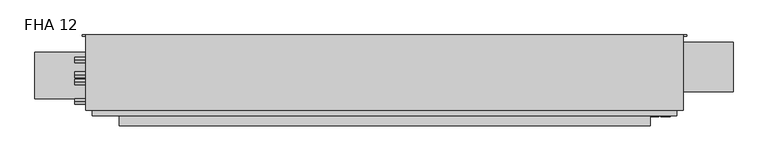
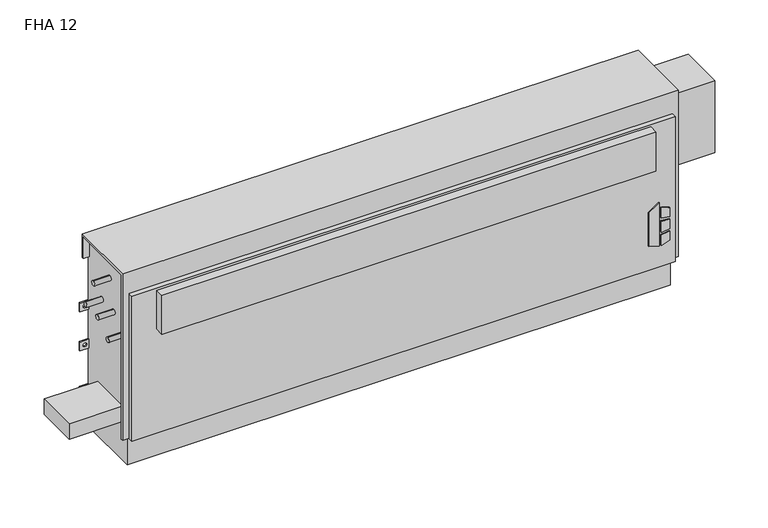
"""IFC4 building model written with IfcOpenShell, lengths in millimetres: proxy geometry, Vertical_Fan_Coil_Unit_-_FHA_-_IEC_-_4-Pipe_FS-FR_LH_2022 : FHA 12."""

import ifcopenshell
import ifcopenshell.guid

model = None  # the IFC model being written
_history = None  # IfcOwnerHistory: only IFC2X3 demands one
_inside = {}  # id of a spatial element -> (the spatial element, [elements in it])
_under = {}  # id of a project, library or spatial element -> (it, [spatial elements below it])
_declared = {}  # id of a project -> (the project, [libraries it declares])
_typed = {}  # id of a type object -> (the type object, [elements of that type])
_made_of = {}  # id of a material, layer set ... -> (it, [elements and type objects made of it])


def new_model(schema):
    """Start an empty IFC model of exactly this schema.

    Asked for "IFC4X3", IfcOpenShell would pick the latest addendum, in which some entities
    have other attributes; the version numbers below select the first issue.
    IFC2X3 requires an IfcOwnerHistory on every rooted entity: one is made here for all.
    """
    global model, _history
    if schema == "IFC4X3":
        model = ifcopenshell.file(schema_version=(4, 3, 0, 0))
    else:
        model = ifcopenshell.file(schema=schema)
    _inside.clear()
    _under.clear()
    _declared.clear()
    _typed.clear()
    _made_of.clear()
    _history = None
    if model.schema == "IFC2X3":
        org = make("IfcOrganization", Name="unknown")
        user = make(
            "IfcPersonAndOrganization",
            ThePerson=make("IfcPerson", FamilyName="unknown"),
            TheOrganization=org,
        )
        app = make(
            "IfcApplication",
            ApplicationDeveloper=org,
            Version="unknown",
            ApplicationFullName="unknown",
            ApplicationIdentifier="unknown",
        )
        _history = make(
            "IfcOwnerHistory",
            OwningUser=user,
            OwningApplication=app,
            ChangeAction="ADDED",
            CreationDate=0,
        )
    return model


def make(cls, **values):
    """One entity of the class cls with the attributes given. An attribute that is None is left unset."""
    return model.create_entity(
        cls, **{name: value for name, value in values.items() if value is not None}
    )


def rooted(cls, **values):
    """An entity with a GlobalId (a new one), such as an element, a storey or a relation."""
    return make(cls, GlobalId=ifcopenshell.guid.new(), OwnerHistory=_history, **values)


def si_unit(unit_type, name, prefix=None):
    """IfcSIUnit, for example si_unit("LENGTHUNIT", "METRE", prefix="MILLI")."""
    return make("IfcSIUnit", UnitType=unit_type, Prefix=prefix, Name=name)


def assignment(units):
    """IfcUnitAssignment: the units of a project."""
    return None if units is None else make("IfcUnitAssignment", Units=units)


def point(xyz):
    """IfcCartesianPoint."""
    return None if xyz is None else make("IfcCartesianPoint", Coordinates=xyz)


def direction(xyz):
    """IfcDirection."""
    return None if xyz is None else make("IfcDirection", DirectionRatios=xyz)


def frame(location, z_axis=None, x_axis=None):
    """IfcAxis2Placement3D, a coordinate frame: its origin and axes. An axis left out is left unset."""
    return make(
        "IfcAxis2Placement3D",
        Location=point(location),
        Axis=direction(z_axis),
        RefDirection=direction(x_axis),
    )


def frame_2d(location, x_axis=None):
    """IfcAxis2Placement2D, a coordinate frame in the plane: its origin and x axis."""
    return make(
        "IfcAxis2Placement2D", Location=point(location), RefDirection=direction(x_axis)
    )


def origin():
    """The frame at (0, 0, 0) with its axes left unset."""
    return frame((0.0, 0.0, 0.0))


def place(relative_to, where):
    """IfcLocalPlacement: puts the frame where relative to a parent placement (None: the world)."""
    return make(
        "IfcLocalPlacement", PlacementRelTo=relative_to, RelativePlacement=where
    )


def context(
    kind, dimensions, precision=None, world=None, true_north=None, identifier=None
):
    """IfcGeometricRepresentationContext, for example the 3D "Model" context."""
    return make(
        "IfcGeometricRepresentationContext",
        ContextIdentifier=identifier,
        ContextType=kind,
        CoordinateSpaceDimension=dimensions,
        Precision=precision,
        WorldCoordinateSystem=world,
        TrueNorth=true_north,
    )


def project(units=None, contexts=None):
    """IfcProject with its units and contexts."""
    return rooted(
        "IfcProject",
        Name="project",
        RepresentationContexts=contexts,
        UnitsInContext=assignment(units),
    )


def spatial(cls, under=None, at=None, **own):
    """A site, building, storey or space (cls), placed at a placement, below another one or the project."""
    s = rooted(cls, ObjectPlacement=at, **own)
    if under is not None:
        _under.setdefault(under.id(), (under, []))[1].append(s)
    return s


def polyline(points):
    """IfcPolyline through the points."""
    return make("IfcPolyline", Points=[point(p) for p in points])


def circle_curve(where, radius):
    """IfcCircle in the frame where."""
    return make("IfcCircle", Position=where, Radius=radius)


def trimmed(basis, trim1, trim2, sense, master):
    """IfcTrimmedCurve: the piece of a basis curve between two trims."""
    return make(
        "IfcTrimmedCurve",
        BasisCurve=basis,
        Trim1=trim1,
        Trim2=trim2,
        SenseAgreement=sense,
        MasterRepresentation=master,
    )


def segment(curve, same_sense, transition):
    """IfcCompositeCurveSegment."""
    return make(
        "IfcCompositeCurveSegment",
        Transition=transition,
        SameSense=same_sense,
        ParentCurve=curve,
    )


def composite_curve(segments, self_intersect=None):
    """IfcCompositeCurve: segments joined end to end."""
    return make("IfcCompositeCurve", Segments=segments, SelfIntersect=self_intersect)


def outline(outer, holes=None, kind="AREA"):
    """IfcArbitraryClosedProfileDef: a profile drawn as a closed curve; with holes, ...WithVoids."""
    if holes is None:
        return make("IfcArbitraryClosedProfileDef", ProfileType=kind, OuterCurve=outer)
    return make(
        "IfcArbitraryProfileDefWithVoids",
        ProfileType=kind,
        OuterCurve=outer,
        InnerCurves=holes,
    )


def extrude(swept, where, along, depth):
    """IfcExtrudedAreaSolid: the profile swept, set in the frame where, extruded along a direction by depth."""
    return make(
        "IfcExtrudedAreaSolid",
        SweptArea=swept,
        Position=where,
        ExtrudedDirection=direction(along),
        Depth=depth,
    )


def shape(context_of_items, identifier, shape_type, items):
    """IfcShapeRepresentation: the items that make up one representation, for example the "Body"."""
    return make(
        "IfcShapeRepresentation",
        ContextOfItems=context_of_items,
        RepresentationIdentifier=identifier,
        RepresentationType=shape_type,
        Items=items,
    )


def source(mapping_origin, context_of_items, identifier, shape_type, items):
    """IfcRepresentationMap: a shape defined once, which mapped items show again and again."""
    return make(
        "IfcRepresentationMap",
        MappingOrigin=mapping_origin,
        MappedRepresentation=shape(context_of_items, identifier, shape_type, items),
    )


def transform(
    local_origin,
    x_axis=None,
    y_axis=None,
    z_axis=None,
    scale=None,
    scale2=None,
    scale3=None,
    uniform=True,
):
    """IfcCartesianTransformationOperator3D, or its non-uniform kind. x_axis, y_axis, z_axis: its Axis1, 2, 3."""
    if uniform:
        return make(
            "IfcCartesianTransformationOperator3D",
            Axis1=direction(x_axis),
            Axis2=direction(y_axis),
            LocalOrigin=point(local_origin),
            Scale=scale,
            Axis3=direction(z_axis),
        )
    return make(
        "IfcCartesianTransformationOperator3DnonUniform",
        Axis1=direction(x_axis),
        Axis2=direction(y_axis),
        LocalOrigin=point(local_origin),
        Scale=scale,
        Axis3=direction(z_axis),
        Scale2=scale2,
        Scale3=scale3,
    )


def mapped(mapping_source, mapping_target):
    """IfcMappedItem: shows the shape of a source again, moved by a transform."""
    return make(
        "IfcMappedItem", MappingSource=mapping_source, MappingTarget=mapping_target
    )


def made_of(thing, what):
    """Note that an element or type object is made of a material, layer set ...; save() writes the relation."""
    if what is not None:
        _made_of.setdefault(what.id(), (what, []))[1].append(thing)
    return thing


def element(
    cls,
    number,
    at=None,
    inside=None,
    cuts=None,
    type_object=None,
    material=None,
    context=None,
    identifier="Body",
    shape_type=None,
    held_by="IfcProductDefinitionShape",
    body=None,
    shapes=None,
    **own,
):
    """One element of the class cls, such as IfcWall. Its Tag is "e" and its number.

    at: its placement. inside: the storey or other place that contains it. cuts: it is an
    opening in that element (IfcRelVoidsElement). A single representation is given by context,
    identifier, shape_type and body (its items); several are given by shapes. held_by: the class
    of the entity that holds the representations. save() writes the other relations.
    """
    e = rooted(cls, Tag="e%d" % number, ObjectPlacement=at, **own)
    if body is not None:
        shapes = [shape(context, identifier, shape_type, body)]
    if shapes is not None:
        e.Representation = make(held_by, Representations=shapes)
    if inside is not None:
        _inside.setdefault(inside.id(), (inside, []))[1].append(e)
    if cuts is not None:
        rooted(
            "IfcRelVoidsElement", RelatingBuildingElement=cuts, RelatedOpeningElement=e
        )
    if type_object is not None:
        _typed.setdefault(type_object.id(), (type_object, []))[1].append(e)
    return made_of(e, material)


def aggregate(whole, parts):
    """IfcRelAggregates: a whole, such as a stair, and the parts it consists of."""
    return rooted("IfcRelAggregates", RelatingObject=whole, RelatedObjects=parts)


def save(model, path):
    """Write the relations noted so far, then the file.

    IfcRelAggregates (storeys below a building ...), IfcRelContainedInSpatialStructure (elements
    in a storey), IfcRelDefinesByType, IfcRelAssociatesMaterial and IfcRelDeclares: one each for
    every whole, place, type object, material and project.
    """
    for whole, parts in _under.values():
        aggregate(whole, parts)
    for where, things in _inside.values():
        rooted(
            "IfcRelContainedInSpatialStructure",
            RelatedElements=things,
            RelatingStructure=where,
        )
    for kind, things in _typed.values():
        rooted("IfcRelDefinesByType", RelatedObjects=things, RelatingType=kind)
    for what, things in _made_of.values():
        rooted("IfcRelAssociatesMaterial", RelatedObjects=things, RelatingMaterial=what)
    for by, libraries in _declared.values():
        rooted("IfcRelDeclares", RelatingContext=by, RelatedDefinitions=libraries)
    model.write(path)


def plane_surface(at):
    """IfcPlane: the flat surface through the origin of the frame at, square to its z axis."""
    return make("IfcPlane", Position=at)


def revolved_surface(curve, axis_point, axis_direction):
    """IfcSurfaceOfRevolution: the curve turned about the line through axis_point along axis_direction."""
    return make(
        "IfcSurfaceOfRevolution",
        SweptCurve=make("IfcArbitraryOpenProfileDef", ProfileType="CURVE", Curve=curve),
        AxisPosition=make("IfcAxis1Placement", Location=point(axis_point), Axis=direction(axis_direction)),
    )


def advanced_brep(points, edges, surfaces, faces):
    """IfcAdvancedBrep: a solid bounded by faces that lie on surfaces and meet in shared edges.

    An edge is (start, end): straight between two places in points (the first is 0);
    or (start, end, curve); or (start, end, curve, False) where it runs against its curve.
    A face is (place in surfaces, loops), or (place, loops, False) where it looks against
    its surface's normal. A loop lists edges by number (the first is 1), with a minus sign
    where the edge is run from its end to its start. The first loop is the outer one.
    """
    corners = [point(p) for p in points]
    vertices = [make("IfcVertexPoint", VertexGeometry=c) for c in corners]
    made = []
    for start, end, *more in edges:
        made.append(
            make(
                "IfcEdgeCurve",
                EdgeStart=vertices[start],
                EdgeEnd=vertices[end],
                EdgeGeometry=more[0] if more else make("IfcPolyline", Points=[corners[start], corners[end]]),
                SameSense=more[1] if len(more) > 1 else True,
            )
        )
    hull = []
    for where, loops, *sense in faces:
        bounds = []
        for j, loop in enumerate(loops):
            ring = [make("IfcOrientedEdge", EdgeElement=made[abs(k) - 1], Orientation=k > 0) for k in loop]
            bounds.append(
                make(
                    "IfcFaceOuterBound" if j == 0 else "IfcFaceBound",
                    Bound=make("IfcEdgeLoop", EdgeList=ring),
                    Orientation=True,
                )
            )
        hull.append(make("IfcAdvancedFace", Bounds=bounds, FaceSurface=surfaces[where], SameSense=sense[0] if sense else True))
    return make("IfcAdvancedBrep", Outer=make("IfcClosedShell", CfsFaces=hull))


def fha_12_9516c50a(model_context):
    return source(origin(), model_context, "Body", "SolidModel", [
        extrude(outline(polyline([(172.5771459, 906.5368862), (162.6290756, 938.7102728), (304.8, 938.7102728), (281.7779939, 906.5368862), (172.5771459, 906.5368862)])), frame((0.0, 9.525, 0.0), z_axis=(0.0, 1.0, 0.0), x_axis=(0.0, 0.0, 1.0)), (0.0, 0.0, 1.0), 3.175),
        extrude(outline(polyline([(251.5764313, 945.4686058), (248.3740387, 971.55), (277.6028798, 971.55), (285.6672948, 945.4686058), (251.5764313, 945.4686058)])), frame((0.0, 9.525, 0.0), z_axis=(0.0, 1.0, 0.0), x_axis=(0.0, 0.0, 1.0)), (0.0, 0.0, 1.0), 3.175),
        extrude(outline(polyline([(199.7129044, 971.55), (196.0474034, 945.4686058), (162.6290756, 945.4686058), (171.2633128, 971.55), (199.7129044, 971.55)])), frame((0.0, 9.525, 0.0), z_axis=(0.0, 1.0, 0.0), x_axis=(0.0, 0.0, 1.0)), (0.0, 0.0, 1.0), 3.175),
        extrude(outline(polyline([(239.0280658, 971.55), (241.3098921, 945.4686058), (205.3723436, 945.4686058), (208.1136086, 971.55), (239.0280658, 971.55)])), frame((0.0, 9.525, 0.0), z_axis=(0.0, 1.0, 0.0), x_axis=(0.0, 0.0, 1.0)), (0.0, 0.0, 1.0), 3.175),
        extrude(outline(composite_curve([segment(trimmed(circle_curve(frame_2d((-749.3, 128.5875)), 9.525), [point((-758.825, 128.5875))], [point((-739.775, 128.5875))], False, "CARTESIAN"), True, "CONTINUOUS"), segment(trimmed(circle_curve(frame_2d((-749.3, 128.5875)), 9.525), [point((-739.775, 128.5875))], [point((-758.825, 128.5875))], False, "CARTESIAN"), True, "CONTINUOUS")], self_intersect=False)), frame((0.0, 0.0, 101.6), z_axis=(0.0, 0.0, 1.0), x_axis=(1.0, 0.0, 0.0)), (0.0, 0.0, 1.0), 25.4),
        extrude(outline(polyline([(-850.9, 61.9125), (-850.9, 195.2625), (-685.8, 195.2625), (-685.8, 61.9125), (-850.9, 61.9125)])), frame((0.0, 0.0, 127.0), z_axis=(0.0, 0.0, 1.0), x_axis=(1.0, 0.0, 0.0)), (0.0, 0.0, 1.0), 50.8),
        extrude(outline(polyline([(914.4, -15.875), (-609.6, -15.875), (-609.6, 12.7), (914.4, 12.7), (914.4, -15.875)])), frame((0.0, 0.0, 431.8), z_axis=(0.0, 0.0, 1.0), x_axis=(1.0, 0.0, 0.0)), (0.0, 0.0, 1.0), 127.0),
        extrude(outline(composite_curve([segment(trimmed(circle_curve(frame_2d((109.0168, 457.2)), 7.9375), [point((109.0168, 465.1375))], [point((109.0168, 449.2625))], False, "CARTESIAN"), True, "CONTINUOUS"), segment(trimmed(circle_curve(frame_2d((109.0168, 457.2)), 7.9375), [point((109.0168, 449.2625))], [point((109.0168, 465.1375))], False, "CARTESIAN"), True, "CONTINUOUS")], self_intersect=False)), frame((-736.6, 0.0, 0.0), z_axis=(1.0, 0.0, 0.0), x_axis=(0.0, 1.0, 0.0)), (0.0, 0.0, 1.0), 50.8),
        extrude(outline(composite_curve([segment(trimmed(circle_curve(frame_2d((172.085, 460.0194)), 7.9375), [point((172.085, 467.9569))], [point((172.085, 452.0819))], False, "CARTESIAN"), True, "CONTINUOUS"), segment(trimmed(circle_curve(frame_2d((172.085, 460.0194)), 7.9375), [point((172.085, 452.0819))], [point((172.085, 467.9569))], False, "CARTESIAN"), True, "CONTINUOUS")], self_intersect=False)), frame((-736.6, 0.0, 0.0), z_axis=(1.0, 0.0, 0.0), x_axis=(0.0, 1.0, 0.0)), (0.0, 0.0, 1.0), 50.8),
        extrude(outline(composite_curve([segment(trimmed(circle_curve(frame_2d((130.175, 554.99)), 7.9502), [point((130.175, 562.9402))], [point((130.175, 547.0398))], False, "CARTESIAN"), True, "CONTINUOUS"), segment(trimmed(circle_curve(frame_2d((130.175, 554.99)), 7.9502), [point((130.175, 547.0398))], [point((130.175, 562.9402))], False, "CARTESIAN"), True, "CONTINUOUS")], self_intersect=False)), frame((-736.6, 0.0, 0.0), z_axis=(1.0, 0.0, 0.0), x_axis=(0.0, 1.0, 0.0)), (0.0, 0.0, 1.0), 50.8),
        extrude(outline(composite_curve([segment(trimmed(circle_curve(frame_2d((53.975, 416.56)), 7.9502), [point((53.975, 424.5102))], [point((53.975, 408.6098))], False, "CARTESIAN"), True, "CONTINUOUS"), segment(trimmed(circle_curve(frame_2d((53.975, 416.56)), 7.9502), [point((53.975, 408.6098))], [point((53.975, 424.5102))], False, "CARTESIAN"), True, "CONTINUOUS")], self_intersect=False)), frame((-736.6, 0.0, 0.0), z_axis=(1.0, 0.0, 0.0), x_axis=(0.0, 1.0, 0.0)), (0.0, 0.0, 1.0), 50.8),
        extrude(outline(polyline([(1152.525, 223.266), (1152.525, 81.534), (990.6, 81.534), (990.6, 223.266), (1152.525, 223.266)])), frame((0.0, 0.0, 349.25), z_axis=(0.0, 0.0, 1.0), x_axis=(1.0, 0.0, 0.0)), (0.0, 0.0, 1.0), 234.95),
        advanced_brep(
        [(1009.65, 244.475, 635.0), (-704.85, 244.475, 635.0), (-704.85, 28.575, 635.0), (1009.65, 28.575, 635.0), (-685.8, 244.475, 0.0), (990.6, 244.475, 0.0), (990.6, 38.1, 0.0), (-685.8, 38.1, 0.0), (1009.65, 244.475, 558.8), (990.6, 244.475, 558.8), (990.6, 244.475, 414.3375), (1019.175, 244.475, 414.3375), (1019.175, 244.475, 385.7625), (990.6, 244.475, 385.7625), (990.6, 244.475, 287.3375), (1019.175, 244.475, 287.3375), (1019.175, 244.475, 258.7625), (990.6, 244.475, 258.7625), (990.6, 244.475, 141.2875), (1019.175, 244.475, 141.2875), (1019.175, 244.475, 112.7125), (990.6, 244.475, 112.7125), (-685.8, 244.475, 112.7125), (-714.375, 244.475, 112.7125), (-714.375, 244.475, 141.2875), (-685.8, 244.475, 141.2875), (-685.8, 244.475, 258.7625), (-714.375, 244.475, 258.7625), (-714.375, 244.475, 287.3375), (-685.8, 244.475, 287.3375), (-685.8, 244.475, 385.7625), (-714.375, 244.475, 385.7625), (-714.375, 244.475, 414.3375), (-685.8, 244.475, 414.3375), (-685.8, 244.475, 558.8), (-704.85, 244.475, 558.8), (1008.8626, 244.475, 127.0), (997.7374, 244.475, 127.0), (-692.9374, 244.475, 127.0), (-704.0626, 244.475, 127.0), (1008.8626, 244.475, 273.05), (997.7374, 244.475, 273.05), (-692.9374, 244.475, 273.05), (-704.0626, 244.475, 273.05), (1008.8626, 244.475, 400.05), (997.7374, 244.475, 400.05), (-692.9374, 244.475, 400.05), (-704.0626, 244.475, 400.05), (-704.85, 238.125, 558.8), (-704.85, 238.125, 628.65), (-704.85, 34.925, 628.65), (-704.85, 34.925, 92.075), (-704.85, 28.575, 92.075), (990.6, 12.7, 565.15), (-685.8, 12.7, 565.15), (-685.8, 12.7, 92.075), (990.6, 12.7, 92.075), (1009.65, 28.575, 92.075), (1009.65, 34.925, 92.075), (1009.65, 34.925, 628.65), (1009.65, 238.125, 628.65), (1009.65, 238.125, 558.8), (-685.8, 28.575, 92.075), (-685.8, 28.575, 565.15), (990.6, 28.575, 565.15), (990.6, 28.575, 92.075), (-685.8, 34.925, 92.075), (-685.8, 38.1, 92.075), (990.6, 38.1, 92.075), (990.6, 34.925, 92.075), (990.6, 241.3, 112.7125), (990.6, 241.3, 141.2875), (990.6, 241.3, 258.7625), (990.6, 241.3, 287.3375), (990.6, 241.3, 385.7625), (990.6, 241.3, 414.3375), (990.6, 238.125, 558.8), (990.6, 238.125, 628.65), (990.6, 34.925, 628.65), (-685.8, 34.925, 628.65), (-685.8, 238.125, 628.65), (-685.8, 238.125, 558.8), (-685.8, 241.3, 414.3375), (-685.8, 241.3, 385.7625), (-685.8, 241.3, 287.3375), (-685.8, 241.3, 258.7625), (-685.8, 241.3, 141.2875), (-685.8, 241.3, 112.7125), (1019.175, 241.3, 112.7125), (1019.175, 241.3, 141.2875), (997.7374, 241.3, 127.0), (1008.8626, 241.3, 127.0), (1019.175, 241.3, 258.7625), (1019.175, 241.3, 287.3375), (997.7374, 241.3, 273.05), (1008.8626, 241.3, 273.05), (1019.175, 241.3, 385.7625), (1019.175, 241.3, 414.3375), (997.7374, 241.3, 400.05), (1008.8626, 241.3, 400.05), (-714.375, 241.3, 141.2875), (-714.375, 241.3, 112.7125), (-704.0626, 241.3, 127.0), (-692.9374, 241.3, 127.0), (-714.375, 241.3, 287.3375), (-714.375, 241.3, 258.7625), (-704.0626, 241.3, 273.05), (-692.9374, 241.3, 273.05), (-714.375, 241.3, 414.3375), (-714.375, 241.3, 385.7625), (-704.0626, 241.3, 400.05), (-692.9374, 241.3, 400.05)],
        [
            (0, 1),
            (1, 2),
            (2, 3),
            (3, 0),
            (4, 5),
            (5, 6),
            (6, 7),
            (7, 4),
            (0, 8),
            (8, 9),
            (9, 10),
            (10, 11),
            (11, 12),
            (12, 13),
            (13, 14),
            (14, 15),
            (15, 16),
            (16, 17),
            (17, 18),
            (18, 19),
            (19, 20),
            (20, 21),
            (21, 5),
            (4, 22),
            (22, 23),
            (23, 24),
            (24, 25),
            (25, 26),
            (26, 27),
            (27, 28),
            (28, 29),
            (29, 30),
            (30, 31),
            (31, 32),
            (32, 33),
            (33, 34),
            (34, 35),
            (35, 1),
            (36, 37, circle_curve(frame((1003.3, 244.475, 127.0), z_axis=(0.0, -1.0, 0.0), x_axis=(-1.0, 0.0, 0.0)), 5.5626)),
            (37, 36, circle_curve(frame((1003.3, 244.475, 127.0), z_axis=(0.0, -1.0, 0.0), x_axis=(-1.0, 0.0, 0.0)), 5.5626)),
            (38, 39, circle_curve(frame((-698.5, 244.475, 127.0), z_axis=(0.0, -1.0, 0.0), x_axis=(-1.0, 0.0, 0.0)), 5.5626)),
            (39, 38, circle_curve(frame((-698.5, 244.475, 127.0), z_axis=(0.0, -1.0, 0.0), x_axis=(-1.0, 0.0, 0.0)), 5.5626)),
            (40, 41, circle_curve(frame((1003.3, 244.475, 273.05), z_axis=(0.0, -1.0, 0.0), x_axis=(-1.0, 0.0, 0.0)), 5.5626)),
            (41, 40, circle_curve(frame((1003.3, 244.475, 273.05), z_axis=(0.0, -1.0, 0.0), x_axis=(-1.0, 0.0, 0.0)), 5.5626)),
            (42, 43, circle_curve(frame((-698.5, 244.475, 273.05), z_axis=(0.0, -1.0, 0.0), x_axis=(-1.0, 0.0, 0.0)), 5.5626)),
            (43, 42, circle_curve(frame((-698.5, 244.475, 273.05), z_axis=(0.0, -1.0, 0.0), x_axis=(-1.0, 0.0, 0.0)), 5.5626)),
            (44, 45, circle_curve(frame((1003.3, 244.475, 400.05), z_axis=(0.0, -1.0, 0.0), x_axis=(-1.0, 0.0, 0.0)), 5.5626)),
            (45, 44, circle_curve(frame((1003.3, 244.475, 400.05), z_axis=(0.0, -1.0, 0.0), x_axis=(-1.0, 0.0, 0.0)), 5.5626)),
            (46, 47, circle_curve(frame((-698.5, 244.475, 400.05), z_axis=(0.0, -1.0, 0.0), x_axis=(-1.0, 0.0, 0.0)), 5.5626)),
            (47, 46, circle_curve(frame((-698.5, 244.475, 400.05), z_axis=(0.0, -1.0, 0.0), x_axis=(-1.0, 0.0, 0.0)), 5.5626)),
            (35, 48),
            (48, 49),
            (49, 50),
            (50, 51),
            (51, 52),
            (52, 2),
            (53, 54),
            (54, 55),
            (55, 56),
            (56, 53),
            (3, 57),
            (57, 58),
            (58, 59),
            (59, 60),
            (60, 61),
            (61, 8),
            (52, 62),
            (62, 63),
            (63, 64),
            (64, 65),
            (65, 57),
            (53, 64),
            (63, 54),
            (55, 62),
            (51, 66),
            (66, 67),
            (67, 68),
            (68, 69),
            (69, 58),
            (65, 56),
            (6, 68),
            (67, 7),
            (21, 70),
            (70, 71),
            (71, 18),
            (17, 72),
            (72, 73),
            (73, 14),
            (13, 74),
            (74, 75),
            (75, 10),
            (9, 76),
            (76, 77),
            (77, 78),
            (78, 69),
            (66, 79),
            (79, 80),
            (80, 81),
            (81, 34),
            (33, 82),
            (82, 83),
            (83, 30),
            (29, 84),
            (84, 85),
            (85, 26),
            (25, 86),
            (86, 87),
            (87, 22),
            (76, 61),
            (60, 77),
            (78, 59),
            (50, 79),
            (81, 48),
            (80, 49),
            (70, 88),
            (88, 89),
            (89, 71),
            (90, 91, circle_curve(frame((1003.3, 241.3, 127.0), z_axis=(0.0, 1.0, 0.0), x_axis=(-1.0, 0.0, 0.0)), 5.5626)),
            (91, 90, circle_curve(frame((1003.3, 241.3, 127.0), z_axis=(0.0, 1.0, 0.0), x_axis=(-1.0, 0.0, 0.0)), 5.5626)),
            (92, 93),
            (93, 73),
            (72, 92),
            (94, 95, circle_curve(frame((1003.3, 241.3, 273.05), z_axis=(0.0, 1.0, 0.0), x_axis=(-1.0, 0.0, 0.0)), 5.5626)),
            (95, 94, circle_curve(frame((1003.3, 241.3, 273.05), z_axis=(0.0, 1.0, 0.0), x_axis=(-1.0, 0.0, 0.0)), 5.5626)),
            (96, 97),
            (97, 75),
            (74, 96),
            (98, 99, circle_curve(frame((1003.3, 241.3, 400.05), z_axis=(0.0, 1.0, 0.0), x_axis=(-1.0, 0.0, 0.0)), 5.5626)),
            (99, 98, circle_curve(frame((1003.3, 241.3, 400.05), z_axis=(0.0, 1.0, 0.0), x_axis=(-1.0, 0.0, 0.0)), 5.5626)),
            (100, 101),
            (101, 87),
            (86, 100),
            (102, 103, circle_curve(frame((-698.5, 241.3, 127.0), z_axis=(0.0, 1.0, 0.0), x_axis=(-1.0, 0.0, 0.0)), 5.5626)),
            (103, 102, circle_curve(frame((-698.5, 241.3, 127.0), z_axis=(0.0, 1.0, 0.0), x_axis=(-1.0, 0.0, 0.0)), 5.5626)),
            (84, 104),
            (104, 105),
            (105, 85),
            (106, 107, circle_curve(frame((-698.5, 241.3, 273.05), z_axis=(0.0, 1.0, 0.0), x_axis=(-1.0, 0.0, 0.0)), 5.5626)),
            (107, 106, circle_curve(frame((-698.5, 241.3, 273.05), z_axis=(0.0, 1.0, 0.0), x_axis=(-1.0, 0.0, 0.0)), 5.5626)),
            (108, 109),
            (109, 83),
            (82, 108),
            (110, 111, circle_curve(frame((-698.5, 241.3, 400.05), z_axis=(0.0, 1.0, 0.0), x_axis=(-1.0, 0.0, 0.0)), 5.5626)),
            (111, 110, circle_curve(frame((-698.5, 241.3, 400.05), z_axis=(0.0, 1.0, 0.0), x_axis=(-1.0, 0.0, 0.0)), 5.5626)),
            (89, 19),
            (88, 20),
            (16, 92),
            (93, 15),
            (12, 96),
            (97, 11),
            (24, 100),
            (101, 23),
            (105, 27),
            (104, 28),
            (32, 108),
            (109, 31),
            (90, 37),
            (36, 91),
            (102, 39),
            (38, 103),
            (94, 41),
            (40, 95),
            (106, 43),
            (42, 107),
            (98, 45),
            (44, 99),
            (110, 47),
            (46, 111),
        ],
        [
            plane_surface(frame((-704.85, 244.475, 635.0), z_axis=(0.0, 0.0, 1.0), x_axis=(-1.0, 0.0, 0.0))),
            plane_surface(frame((-704.85, 244.475, 0.0), z_axis=(0.0, 0.0, -1.0), x_axis=(1.0, 0.0, 0.0))),
            plane_surface(frame((1009.65, 244.475, 635.0), z_axis=(0.0, 1.0, 0.0), x_axis=(0.0, 0.0, -1.0))),
            plane_surface(frame((-704.85, 244.475, 635.0), z_axis=(-1.0, 0.0, 0.0), x_axis=(0.0, 0.0, -1.0))),
            plane_surface(frame((-704.85, 12.7, 635.0), z_axis=(0.0, -1.0, 0.0), x_axis=(0.0, 0.0, -1.0))),
            plane_surface(frame((1009.65, 12.7, 635.0), z_axis=(1.0, 0.0, 0.0), x_axis=(0.0, 0.0, -1.0))),
            plane_surface(frame((-1263.65, 28.575, 635.0), z_axis=(0.0, -1.0, 0.0), x_axis=(1.0, 0.0, 0.0))),
            plane_surface(frame((-1263.65, 28.575, 565.15), z_axis=(0.0, 0.0, 1.0), x_axis=(1.0, 0.0, 0.0))),
            plane_surface(frame((-704.85, 12.7, 92.075), z_axis=(0.0, 0.0, -1.0), x_axis=(1.0, 0.0, 0.0))),
            plane_surface(frame((-704.85, 38.1, 92.075), z_axis=(0.0, -1.0, 0.0), x_axis=(1.0, 0.0, 0.0))),
            plane_surface(frame((990.6, 28.575, 92.075), z_axis=(1.0, 0.0, 0.0), x_axis=(0.0, -1.0, 0.0))),
            plane_surface(frame((-685.8, 28.575, 565.15), z_axis=(-1.0, 0.0, 0.0), x_axis=(0.0, -1.0, 0.0))),
            plane_surface(frame((990.6, 244.475, 0.0), z_axis=(1.0, 0.0, 0.0), x_axis=(0.0, -1.0, 0.0))),
            plane_surface(frame((-685.8, 244.475, 92.075), z_axis=(-1.0, 0.0, 0.0), x_axis=(0.0, -1.0, 0.0))),
            plane_surface(frame((990.6, 238.125, 628.65), z_axis=(0.0, -1.0, 0.0), x_axis=(1.0, 0.0, 0.0))),
            plane_surface(frame((990.6, 238.125, 558.8), z_axis=(0.0, 0.0, -1.0), x_axis=(1.0, 0.0, 0.0))),
            plane_surface(frame((990.6, 34.925, 92.075), z_axis=(0.0, 1.0, 0.0), x_axis=(1.0, 0.0, 0.0))),
            plane_surface(frame((990.6, 34.925, 628.65), z_axis=(0.0, 0.0, -1.0), x_axis=(1.0, 0.0, 0.0))),
            plane_surface(frame((-685.8, 34.925, 628.65), z_axis=(0.0, 1.0, 0.0), x_axis=(-1.0, 0.0, 0.0))),
            plane_surface(frame((-685.8, 244.475, 558.8), z_axis=(0.0, 0.0, -1.0), x_axis=(-1.0, 0.0, 0.0))),
            plane_surface(frame((-685.8, 238.125, 558.8), z_axis=(0.0, -1.0, 0.0), x_axis=(-1.0, 0.0, 0.0))),
            plane_surface(frame((-685.8, 238.125, 628.65), z_axis=(0.0, 0.0, -1.0), x_axis=(-1.0, 0.0, 0.0))),
            plane_surface(frame((1019.175, 241.3, 141.2875), z_axis=(0.0, -1.0, 0.0), x_axis=(-1.0, 0.0, 0.0))),
            plane_surface(frame((990.6, 244.475, 141.2875), z_axis=(0.0, 0.0, 1.0), x_axis=(0.0, -1.0, 0.0))),
            plane_surface(frame((1019.175, 244.475, 141.2875), z_axis=(1.0, 0.0, 0.0), x_axis=(0.0, -1.0, 0.0))),
            plane_surface(frame((1019.175, 244.475, 112.7125), z_axis=(0.0, 0.0, -1.0), x_axis=(0.0, -1.0, 0.0))),
            plane_surface(frame((1019.175, 244.475, 258.7625), z_axis=(0.0, 0.0, -1.0), x_axis=(0.0, -1.0, 0.0))),
            plane_surface(frame((990.6, 244.475, 287.3375), z_axis=(0.0, 0.0, 1.0), x_axis=(0.0, -1.0, 0.0))),
            plane_surface(frame((1019.175, 244.475, 287.3375), z_axis=(1.0, 0.0, 0.0), x_axis=(0.0, -1.0, 0.0))),
            plane_surface(frame((1019.175, 244.475, 385.7625), z_axis=(0.0, 0.0, -1.0), x_axis=(0.0, -1.0, 0.0))),
            plane_surface(frame((990.6, 244.475, 414.3375), z_axis=(0.0, 0.0, 1.0), x_axis=(0.0, -1.0, 0.0))),
            plane_surface(frame((1019.175, 244.475, 414.3375), z_axis=(1.0, 0.0, 0.0), x_axis=(0.0, -1.0, 0.0))),
            plane_surface(frame((-714.375, 244.475, 141.2875), z_axis=(0.0, 0.0, 1.0), x_axis=(0.0, -1.0, 0.0))),
            plane_surface(frame((-685.8, 244.475, 112.7125), z_axis=(0.0, 0.0, -1.0), x_axis=(0.0, -1.0, 0.0))),
            plane_surface(frame((-714.375, 244.475, 112.7125), z_axis=(-1.0, 0.0, 0.0), x_axis=(0.0, -1.0, 0.0))),
            plane_surface(frame((-685.8, 244.475, 258.7625), z_axis=(0.0, 0.0, -1.0), x_axis=(0.0, -1.0, 0.0))),
            plane_surface(frame((-714.375, 244.475, 258.7625), z_axis=(-1.0, 0.0, 0.0), x_axis=(0.0, -1.0, 0.0))),
            plane_surface(frame((-714.375, 244.475, 287.3375), z_axis=(0.0, 0.0, 1.0), x_axis=(0.0, -1.0, 0.0))),
            plane_surface(frame((-714.375, 244.475, 414.3375), z_axis=(0.0, 0.0, 1.0), x_axis=(0.0, -1.0, 0.0))),
            plane_surface(frame((-685.8, 244.475, 385.7625), z_axis=(0.0, 0.0, -1.0), x_axis=(0.0, -1.0, 0.0))),
            plane_surface(frame((-714.375, 244.475, 385.7625), z_axis=(-1.0, 0.0, 0.0), x_axis=(0.0, -1.0, 0.0))),
            revolved_surface(polyline([(997.7374, 241.3, 127.0), (997.7374, 244.475, 127.0)]), (1003.3, 244.475, 127.0), (0.0, -1.0, 0.0)),
            revolved_surface(polyline([(-704.0626, 241.3, 127.0), (-704.0626, 244.475, 127.0)]), (-698.5, 244.475, 127.0), (0.0, -1.0, 0.0)),
            revolved_surface(polyline([(997.7374, 241.3, 273.05), (997.7374, 244.475, 273.05)]), (1003.3, 244.475, 273.05), (0.0, -1.0, 0.0)),
            revolved_surface(polyline([(-704.0626, 241.3, 273.05), (-704.0626, 244.475, 273.05)]), (-698.5, 244.475, 273.05), (0.0, -1.0, 0.0)),
            revolved_surface(polyline([(997.7374, 241.3, 400.05), (997.7374, 244.475, 400.05)]), (1003.3, 244.475, 400.05), (0.0, -1.0, 0.0)),
            revolved_surface(polyline([(-704.0626, 241.3, 400.05), (-704.0626, 244.475, 400.05)]), (-698.5, 244.475, 400.05), (0.0, -1.0, 0.0)),
        ],
        [
            (0, [[1, 2, 3, 4]]),
            (1, [[5, 6, 7, 8]]),
            (2, [[-1, 9, 10, 11, 12, 13, 14, 15, 16, 17, 18, 19, 20, 21, 22, 23, -5, 24, 25, 26, 27, 28, 29, 30, 31, 32, 33, 34, 35, 36, 37, 38], [39, 40], [41, 42], [43, 44], [45, 46], [47, 48], [49, 50]]),
            (3, [[-2, -38, 51, 52, 53, 54, 55, 56]]),
            (4, [[57, 58, 59, 60]]),
            (5, [[-4, 61, 62, 63, 64, 65, 66, -9]]),
            (6, [[-3, -56, 67, 68, 69, 70, 71, -61]]),
            (7, [[-57, 72, -69, 73]]),
            (8, [[-59, 74, -67, -55, 75, 76, 77, 78, 79, -62, -71, 80]]),
            (9, [[-7, 81, -77, 82]]),
            (10, [[-70, -72, -60, -80]]),
            (11, [[-68, -74, -58, -73]]),
            (12, [[-6, -23, 83, 84, 85, -19, 86, 87, 88, -15, 89, 90, 91, -11, 92, 93, 94, 95, -78, -81]]),
            (13, [[-8, -82, -76, 96, 97, 98, 99, -36, 100, 101, 102, -32, 103, 104, 105, -28, 106, 107, 108, -24]]),
            (14, [[-93, 109, -65, 110]]),
            (15, [[-92, -10, -66, -109]]),
            (16, [[-95, 111, -63, -79]]),
            (17, [[-94, -110, -64, -111]]),
            (18, [[-96, -75, -54, 112]]),
            (19, [[-99, 113, -51, -37]]),
            (20, [[-98, 114, -52, -113]]),
            (21, [[-97, -112, -53, -114]]),
            (22, [[115, 116, 117, -84], [118, 119]]),
            (22, [[120, 121, -87, 122], [123, 124]]),
            (22, [[125, 126, -90, 127], [128, 129]]),
            (22, [[130, 131, -107, 132], [133, 134]]),
            (22, [[135, 136, 137, -104], [138, 139]]),
            (22, [[140, 141, -101, 142], [143, 144]]),
            (23, [[-117, 145, -20, -85]]),
            (24, [[-116, 146, -21, -145]]),
            (25, [[-115, -83, -22, -146]]),
            (26, [[-122, -86, -18, 147]]),
            (27, [[-121, 148, -16, -88]]),
            (28, [[-120, -147, -17, -148]]),
            (29, [[-127, -89, -14, 149]]),
            (30, [[-126, 150, -12, -91]]),
            (31, [[-125, -149, -13, -150]]),
            (32, [[-132, -106, -27, 151]]),
            (33, [[-131, 152, -25, -108]]),
            (34, [[-130, -151, -26, -152]]),
            (35, [[-137, 153, -29, -105]]),
            (36, [[-136, 154, -30, -153]]),
            (37, [[-135, -103, -31, -154]]),
            (38, [[-142, -100, -35, 155]]),
            (39, [[-141, 156, -33, -102]]),
            (40, [[-140, -155, -34, -156]]),
            (41, [[157, -39, 158, -118]]),
            (41, [[-157, -119, -158, -40]]),
            (42, [[159, -41, 160, -133]]),
            (42, [[-159, -134, -160, -42]]),
            (43, [[161, -43, 162, -123]]),
            (43, [[-161, -124, -162, -44]]),
            (44, [[163, -45, 164, -138]]),
            (44, [[-163, -139, -164, -46]]),
            (45, [[165, -47, 166, -128]]),
            (45, [[-165, -129, -166, -48]]),
            (46, [[167, -49, 168, -143]]),
            (46, [[-167, -144, -168, -50]]),
        ],
    ),
    ])


if __name__ == "__main__":
    model = new_model("IFC4")
    model_context = context("Model", 3, world=origin())
    ifc_project = project(units=[si_unit("LENGTHUNIT", "METRE", prefix="MILLI")], contexts=[model_context])
    site = spatial("IfcSite", under=ifc_project)
    building = spatial("IfcBuilding", under=site)
    placement = place(None, origin())
    fha_12_shape = fha_12_9516c50a(model_context)
    element("IfcBuildingElementProxy", 1, Name="Vertical_Fan_Coil_Unit_-_FHA_-_IEC_-_4-Pipe_FS-FR_LH_2022 : FHA 12", ObjectType="Vertical_Fan_Coil_Unit_-_FHA_-_IEC_-_4-Pipe_FS-FR_LH_2022 : FHA 12", at=placement, inside=building, context=model_context, shape_type="MappedRepresentation", body=[
        mapped(fha_12_shape, transform((0.0, 0.0, 0.0), x_axis=(1.0, 0.0, 0.0), y_axis=(0.0, 1.0, 0.0), z_axis=(0.0, 0.0, 1.0))),
    ])
    save(model, "model.ifc")
